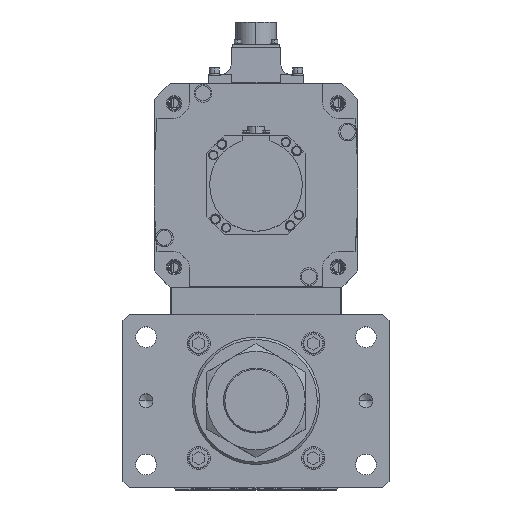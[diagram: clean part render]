
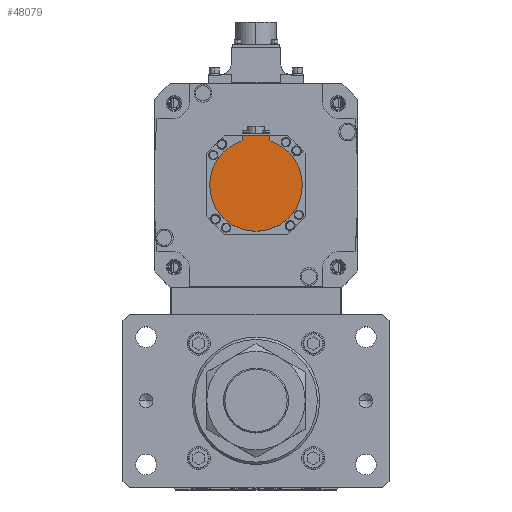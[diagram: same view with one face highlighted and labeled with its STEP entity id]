
A CAD part, top view. The second image highlights one B-rep face of the part: STEP entity #48079.
In plain terms, the highlighted planar face has unit normal (0, 0, 1) as drawn and (0, 0, -1) by its records, which use the part's own axes.
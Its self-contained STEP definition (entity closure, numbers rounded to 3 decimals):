
#32 = VERTEX_POINT ( 'NONE', #32796 ) ;
#462 = AXIS2_PLACEMENT_3D ( 'NONE', #25289, #24601, #37071 ) ;
#3881 = VERTEX_POINT ( 'NONE', #45650 ) ;
#6571 = CARTESIAN_POINT ( 'NONE',  ( 12., -42.5, -162.5 ) ) ;
#7578 = DIRECTION ( 'NONE',  ( 0., 1., 0. ) ) ;
#9756 = CIRCLE ( 'NONE', #37215, 40. ) ;
#10734 = EDGE_CURVE ( 'NONE', #14994, #32, #51317, .T. ) ;
#11648 = EDGE_CURVE ( 'NONE', #32125, #14994, #25070, .T. ) ;
#12590 = ORIENTED_EDGE ( 'NONE', *, *, #51465, .F. ) ;
#12719 = CARTESIAN_POINT ( 'NONE',  ( 0., 0., -162.5 ) ) ;
#14116 = CARTESIAN_POINT ( 'NONE',  ( 40., 0., -162.5 ) ) ;
#14994 = VERTEX_POINT ( 'NONE', #32854 ) ;
#15302 = CARTESIAN_POINT ( 'NONE',  ( 12., -1.249, -162.5 ) ) ;
#16452 = DIRECTION ( 'NONE',  ( 1., 0., 0. ) ) ;
#17617 = CARTESIAN_POINT ( 'NONE',  ( 0., 0., -162.5 ) ) ;
#19076 = VECTOR ( 'NONE', #43487, 1000. ) ;
#19126 = VERTEX_POINT ( 'NONE', #14116 ) ;
#20744 = DIRECTION ( 'NONE',  ( 0., 0., 1. ) ) ;
#20890 = AXIS2_PLACEMENT_3D ( 'NONE', #41247, #20744, #16452 ) ;
#23909 = VECTOR ( 'NONE', #7578, 1000. ) ;
#24329 = CIRCLE ( 'NONE', #20890, 40. ) ;
#24368 = CARTESIAN_POINT ( 'NONE',  ( -40., 0., -162.5 ) ) ;
#24601 = DIRECTION ( 'NONE',  ( 0., 0., 1. ) ) ;
#24698 = DIRECTION ( 'NONE',  ( 1., 0., 0. ) ) ;
#25070 = LINE ( 'NONE', #51250, #51855 ) ;
#25289 = CARTESIAN_POINT ( 'NONE',  ( 0., -1.249, -162.5 ) ) ;
#25858 = AXIS2_PLACEMENT_3D ( 'NONE', #17617, #46125, #29395 ) ;
#28633 = LINE ( 'NONE', #15302, #19076 ) ;
#29395 = DIRECTION ( 'NONE',  ( 1., 0., 0. ) ) ;
#30493 = ORIENTED_EDGE ( 'NONE', *, *, #39906, .F. ) ;
#32125 = VERTEX_POINT ( 'NONE', #6571 ) ;
#32165 = FACE_OUTER_BOUND ( 'NONE', #49980, .T. ) ;
#32796 = CARTESIAN_POINT ( 'NONE',  ( -12., -38.158, -162.5 ) ) ;
#32854 = CARTESIAN_POINT ( 'NONE',  ( -12., -42.5, -162.5 ) ) ;
#34272 = ORIENTED_EDGE ( 'NONE', *, *, #11648, .T. ) ;
#37071 = DIRECTION ( 'NONE',  ( 1., 0., 0. ) ) ;
#37215 = AXIS2_PLACEMENT_3D ( 'NONE', #12719, #45711, #24698 ) ;
#37562 = ORIENTED_EDGE ( 'NONE', *, *, #10734, .T. ) ;
#39906 = EDGE_CURVE ( 'NONE', #3881, #19126, #9756, .T. ) ;
#41247 = CARTESIAN_POINT ( 'NONE',  ( 0., 0., -162.5 ) ) ;
#41507 = PLANE ( 'NONE',  #462 ) ;
#41557 = EDGE_CURVE ( 'NONE', #50586, #32, #24329, .T. ) ;
#42922 = EDGE_CURVE ( 'NONE', #32125, #3881, #28633, .T. ) ;
#43046 = DIRECTION ( 'NONE',  ( -1., 0., 0. ) ) ;
#43487 = DIRECTION ( 'NONE',  ( 0., 1., 0. ) ) ;
#45650 = CARTESIAN_POINT ( 'NONE',  ( 12., -38.158, -162.5 ) ) ;
#45711 = DIRECTION ( 'NONE',  ( 0., 0., 1. ) ) ;
#46125 = DIRECTION ( 'NONE',  ( 0., 0., 1. ) ) ;
#46900 = ORIENTED_EDGE ( 'NONE', *, *, #42922, .F. ) ;
#48079 = ADVANCED_FACE ( 'NONE', ( #32165 ), #41507, .F. ) ;
#48406 = CARTESIAN_POINT ( 'NONE',  ( -12., -40.329, -162.5 ) ) ;
#49980 = EDGE_LOOP ( 'NONE', ( #37562, #50775, #12590, #30493, #46900, #34272 ) ) ;
#50586 = VERTEX_POINT ( 'NONE', #24368 ) ;
#50775 = ORIENTED_EDGE ( 'NONE', *, *, #41557, .F. ) ;
#51069 = CIRCLE ( 'NONE', #25858, 40. ) ;
#51250 = CARTESIAN_POINT ( 'NONE',  ( 0., -42.5, -162.5 ) ) ;
#51317 = LINE ( 'NONE', #48406, #23909 ) ;
#51465 = EDGE_CURVE ( 'NONE', #19126, #50586, #51069, .T. ) ;
#51855 = VECTOR ( 'NONE', #43046, 1000. ) ;
